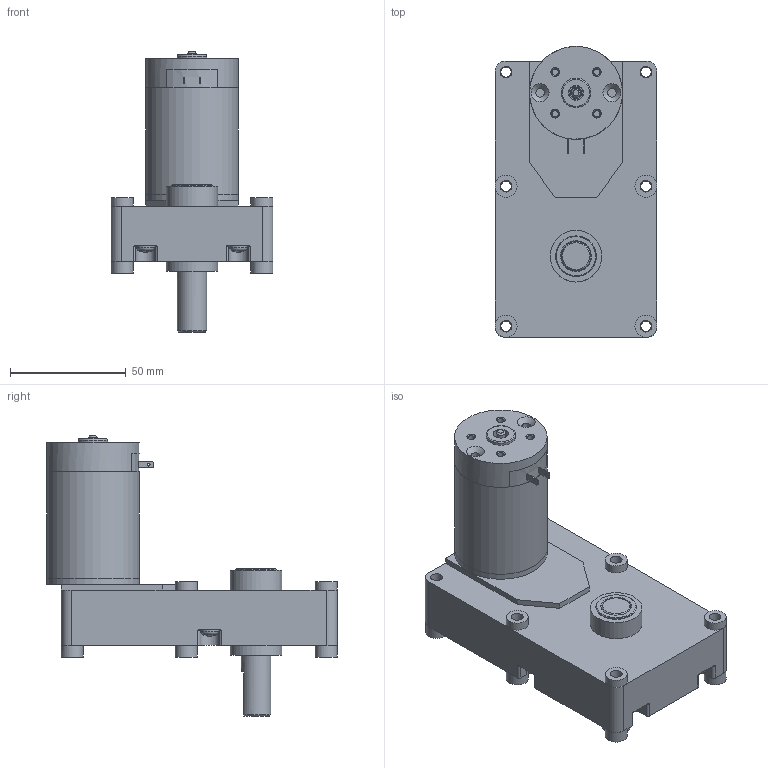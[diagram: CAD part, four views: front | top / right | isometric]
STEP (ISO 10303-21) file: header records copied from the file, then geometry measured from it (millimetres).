
FILE_DESCRIPTION((''),'2;1');
FILE_NAME('D:\업무 관련\2. DC\홈페이지 링크용 도면\3D\SG\SG44BT.stp','2015-04-04T09:20:50',('leejy'),(''),'Autodesk Inventor 2013','Autodesk Inventor 2013','');
FILE_SCHEMA(('AUTOMOTIVE_DESIGN { 1 0 10303 214 1 1 1 1 }'));
Length unit declared in the file: millimetre
Products named in the file (9): SG44BT; SG2 SERIES BOX; RM44ㅁBT; REAR_HOUSING__ASS'Y_TERMINAL; RM4TYPE_BRUSH_BRAKET_TERMINAL; RM4TYPE_REAR_HOUSING; RM4TYPE_FRONT_HOUSING_; RM44TYPE_SHAFT; RM4TYPE_PIPE_HOUSING_pi40XL45.9
Assembly tree (7 placements, depth 3):
  SG44BT
    SG2 SERIES BOX
    RM44ㅁBT
      RM4TYPE_FRONT_HOUSING_
      RM44TYPE_SHAFT
      RM4TYPE_PIPE_HOUSING_pi40XL45.9
  REAR_HOUSING__ASS'Y_TERMINAL
    RM4TYPE_BRUSH_BRAKET_TERMINAL
    RM4TYPE_REAR_HOUSING
Bounding box: 69.85 x 125.41 x 120.78 mm (x, y, z)
Volume: 122158.8 mm3; surface area: 75579.8 mm2
Topology: 7 solids, 7 shells, 455 faces, 1192 edges, 773 vertices
Faces by surface type: plane 179, cylinder 123, cone 95, torus 52, sphere 6
Full cylindrical faces by diameter (mm): 1.2 x2, 2.7 x4, 2.8 x4, 3.571 x6, 3.7 x2, 3.969 x1, 4 x7, 4.3 x6, 4.4 x6, 4.45 x1, 5 x1, 5.05 x6, 6 x1, 6.5 x1, 6.65 x1, 9.4 x1, 9.5 x9, 12.7 x5, 17.5 x4, 20.3 x1, 22.3 x2, 36.5 x1, 40 x3
Entity records: 14168 total; most frequent: CARTESIAN_POINT 3454, DIRECTION 2165, ORIENTED_EDGE 1988, EDGE_CURVE 994, AXIS2_PLACEMENT_3D 917, VERTEX_POINT 712, EDGE_LOOP 670, FACE_OUTER_BOUND 455
